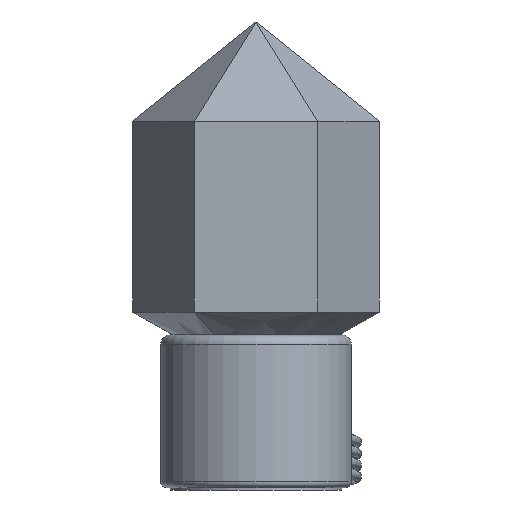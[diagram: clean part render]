
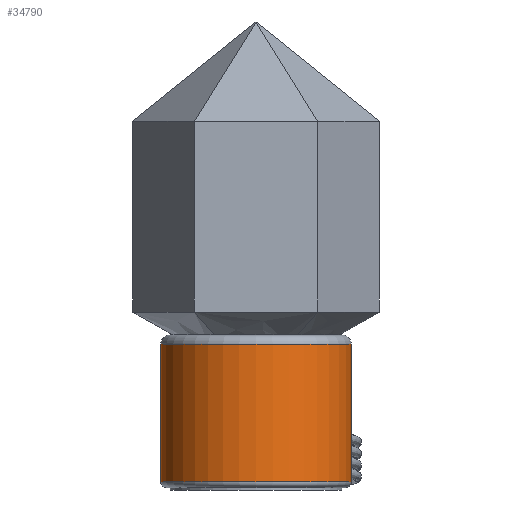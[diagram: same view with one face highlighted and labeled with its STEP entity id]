
A CAD part, front view. The second image highlights one B-rep face of the part: STEP entity #34790.
In plain terms, the highlighted cylindrical face has radius 63.5 mm (diameter 127 mm), a full revolution.
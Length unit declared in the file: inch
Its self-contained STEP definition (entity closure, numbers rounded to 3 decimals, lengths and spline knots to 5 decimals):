
#159=FACE_BOUND('',#5952,.T.);
#397=B_SPLINE_CURVE_WITH_KNOTS('',3,(#46112,#46113,#46114,#46115,#46116,
#46117,#46118,#46119,#46120,#46121,#46122,#46123,#46124,#46125,#46126,#46127,
#46128,#46129,#46130,#46131,#46132,#46133,#46134,#46135,#46136,#46137,#46138,
#46139,#46140,#46141,#46142,#46143,#46144,#46145),.UNSPECIFIED.,.T.,.F.,
(4,2,2,2,2,2,2,2,2,2,2,2,2,2,2,2,4),(0.,0.19144,0.38288,
0.57429,0.7657,0.95719,1.14868,
1.34013,1.53157,1.72302,1.91447,2.10596,
2.29745,2.48886,2.68027,2.87171,3.06315),
 .UNSPECIFIED.);
#3930=FACE_OUTER_BOUND('',#5951,.T.);
#5951=EDGE_LOOP('',(#23976,#23977,#23978,#23979));
#5952=EDGE_LOOP('',(#23980));
#8144=LINE('',#46110,#11449);
#11449=VECTOR('',#38588,2.5);
#14759=CIRCLE('',#36990,2.5);
#14762=CIRCLE('',#36994,2.5);
#15096=VERTEX_POINT('',#46102);
#15098=VERTEX_POINT('',#46108);
#15099=VERTEX_POINT('',#46111);
#18610=EDGE_CURVE('',#15096,#15096,#14759,.T.);
#18613=EDGE_CURVE('',#15098,#15098,#14762,.T.);
#18614=EDGE_CURVE('',#15098,#15096,#8144,.T.);
#18615=EDGE_CURVE('',#15099,#15099,#397,.F.);
#23976=ORIENTED_EDGE('',*,*,#18613,.F.);
#23977=ORIENTED_EDGE('',*,*,#18614,.T.);
#23978=ORIENTED_EDGE('',*,*,#18610,.F.);
#23979=ORIENTED_EDGE('',*,*,#18614,.F.);
#23980=ORIENTED_EDGE('',*,*,#18615,.T.);
#34656=CYLINDRICAL_SURFACE('',#36993,2.5);
#34790=ADVANCED_FACE('',(#3930,#159),#34656,.T.);
#36990=AXIS2_PLACEMENT_3D('',#46103,#38578,#38579);
#36993=AXIS2_PLACEMENT_3D('',#46107,#38584,#38585);
#36994=AXIS2_PLACEMENT_3D('',#46109,#38586,#38587);
#38578=DIRECTION('center_axis',(0.,0.,-1.));
#38579=DIRECTION('ref_axis',(1.,0.,0.));
#38584=DIRECTION('center_axis',(0.,0.,1.));
#38585=DIRECTION('ref_axis',(1.,0.,0.));
#38586=DIRECTION('center_axis',(0.,0.,1.));
#38587=DIRECTION('ref_axis',(1.,0.,0.));
#38588=DIRECTION('',(0.,0.,-1.));
#46102=CARTESIAN_POINT('',(-2.5,0.,0.16));
#46103=CARTESIAN_POINT('Origin',(0.,0.,0.16));
#46107=CARTESIAN_POINT('Origin',(0.,0.,0.));
#46108=CARTESIAN_POINT('',(-2.5,0.,3.75));
#46109=CARTESIAN_POINT('Origin',(0.,0.,3.75));
#46110=CARTESIAN_POINT('',(-2.5,0.,0.));
#46111=CARTESIAN_POINT('',(-0.18297,2.4933,0.60024));
#46112=CARTESIAN_POINT('Ctrl Pts',(-0.18297,2.4933,
0.60024));
#46113=CARTESIAN_POINT('Ctrl Pts',(-0.18297,2.4933,
0.62537));
#46114=CARTESIAN_POINT('Ctrl Pts',(-0.17795,2.49368,
0.65216));
#46115=CARTESIAN_POINT('Ctrl Pts',(-0.15753,2.49505,
0.70143));
#46116=CARTESIAN_POINT('Ctrl Pts',(-0.14214,2.49602,0.72392));
#46117=CARTESIAN_POINT('Ctrl Pts',(-0.10663,2.49779,0.75942));
#46118=CARTESIAN_POINT('Ctrl Pts',(-0.08415,2.49871,
0.77481));
#46119=CARTESIAN_POINT('Ctrl Pts',(-0.03488,2.49988,
0.79522));
#46120=CARTESIAN_POINT('Ctrl Pts',(-0.00809,2.50011,
0.80024));
#46121=CARTESIAN_POINT('Ctrl Pts',(0.04216,2.49977,
0.80024));
#46122=CARTESIAN_POINT('Ctrl Pts',(0.06896,2.49917,
0.79522));
#46123=CARTESIAN_POINT('Ctrl Pts',(0.11823,2.49732,0.7748));
#46124=CARTESIAN_POINT('Ctrl Pts',(0.14071,2.4961,0.75941));
#46125=CARTESIAN_POINT('Ctrl Pts',(0.17621,2.49385,0.72391));
#46126=CARTESIAN_POINT('Ctrl Pts',(0.1916,2.49267,0.70143));
#46127=CARTESIAN_POINT('Ctrl Pts',(0.21201,2.49102,0.65216));
#46128=CARTESIAN_POINT('Ctrl Pts',(0.21703,2.49056,0.62537));
#46129=CARTESIAN_POINT('Ctrl Pts',(0.21703,2.49056,0.57512));
#46130=CARTESIAN_POINT('Ctrl Pts',(0.21201,2.49102,0.54833));
#46131=CARTESIAN_POINT('Ctrl Pts',(0.1916,2.49267,0.49906));
#46132=CARTESIAN_POINT('Ctrl Pts',(0.17621,2.49385,0.47658));
#46133=CARTESIAN_POINT('Ctrl Pts',(0.14071,2.4961,0.44108));
#46134=CARTESIAN_POINT('Ctrl Pts',(0.11823,2.49732,0.42568));
#46135=CARTESIAN_POINT('Ctrl Pts',(0.06896,2.49917,
0.40527));
#46136=CARTESIAN_POINT('Ctrl Pts',(0.04216,2.49977,
0.40024));
#46137=CARTESIAN_POINT('Ctrl Pts',(-0.00809,2.50011,
0.40024));
#46138=CARTESIAN_POINT('Ctrl Pts',(-0.03488,2.49988,
0.40526));
#46139=CARTESIAN_POINT('Ctrl Pts',(-0.08415,2.49871,
0.42567));
#46140=CARTESIAN_POINT('Ctrl Pts',(-0.10663,2.49779,0.44106));
#46141=CARTESIAN_POINT('Ctrl Pts',(-0.14214,2.49602,0.47657));
#46142=CARTESIAN_POINT('Ctrl Pts',(-0.15753,2.49505,
0.49905));
#46143=CARTESIAN_POINT('Ctrl Pts',(-0.17795,2.49368,
0.54833));
#46144=CARTESIAN_POINT('Ctrl Pts',(-0.18297,2.4933,
0.57512));
#46145=CARTESIAN_POINT('Ctrl Pts',(-0.18297,2.4933,
0.60024));
